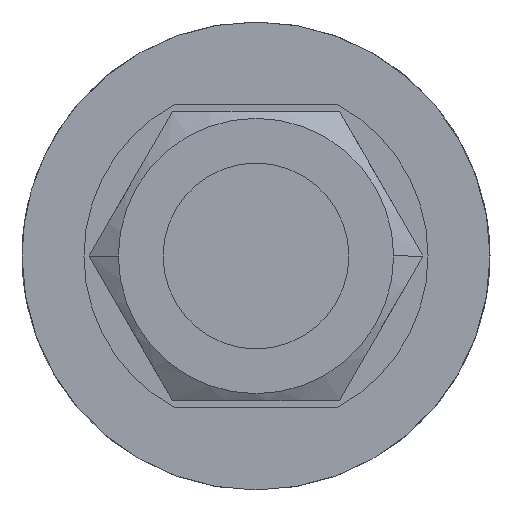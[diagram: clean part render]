
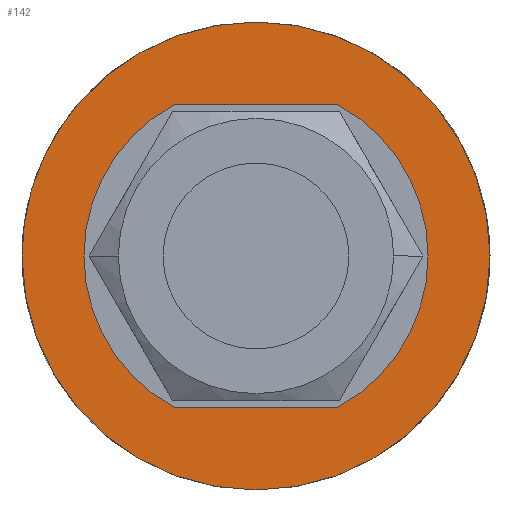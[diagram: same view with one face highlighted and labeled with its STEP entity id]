
A CAD part, left-side view. The second image highlights one B-rep face of the part: STEP entity #142.
In plain terms, the highlighted planar face has unit normal (-1, 0, 0).
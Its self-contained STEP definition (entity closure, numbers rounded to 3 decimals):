
#142 = ADVANCED_FACE( '', ( #196, #197 ), #198, .T. );
#196 = FACE_BOUND( '', #266, .T. );
#197 = FACE_OUTER_BOUND( '', #267, .T. );
#198 = PLANE( '', #268 );
#266 = EDGE_LOOP( '', ( #432, #433, #434, #435, #436, #437 ) );
#267 = EDGE_LOOP( '', ( #438, #439, #440 ) );
#268 = AXIS2_PLACEMENT_3D( '', #441, #442, #443 );
#432 = ORIENTED_EDGE( '', *, *, #555, .F. );
#433 = ORIENTED_EDGE( '', *, *, #590, .T. );
#434 = ORIENTED_EDGE( '', *, *, #561, .F. );
#435 = ORIENTED_EDGE( '', *, *, #595, .F. );
#436 = ORIENTED_EDGE( '', *, *, #587, .T. );
#437 = ORIENTED_EDGE( '', *, *, #596, .F. );
#438 = ORIENTED_EDGE( '', *, *, #597, .T. );
#439 = ORIENTED_EDGE( '', *, *, #559, .T. );
#440 = ORIENTED_EDGE( '', *, *, #598, .T. );
#441 = CARTESIAN_POINT( '', ( -33., 14.75, 0. ) );
#442 = DIRECTION( '', ( -1., 0., 0. ) );
#443 = DIRECTION( '', ( 0., 1., 0. ) );
#555 = EDGE_CURVE( '', #640, #636, #642, .T. );
#559 = EDGE_CURVE( '', #644, #648, #650, .T. );
#561 = EDGE_CURVE( '', #651, #654, #655, .T. );
#587 = EDGE_CURVE( '', #696, #693, #697, .T. );
#590 = EDGE_CURVE( '', #640, #654, #701, .T. );
#595 = EDGE_CURVE( '', #696, #651, #706, .T. );
#596 = EDGE_CURVE( '', #636, #693, #707, .T. );
#597 = EDGE_CURVE( '', #708, #644, #709, .T. );
#598 = EDGE_CURVE( '', #648, #708, #710, .T. );
#636 = VERTEX_POINT( '', #788 );
#640 = VERTEX_POINT( '', #793 );
#642 = CIRCLE( '', #796, 12.5 );
#644 = VERTEX_POINT( '', #798 );
#648 = VERTEX_POINT( '', #803 );
#650 = CIRCLE( '', #806, 17. );
#651 = VERTEX_POINT( '', #807 );
#654 = VERTEX_POINT( '', #811 );
#655 = CIRCLE( '', #812, 12.5 );
#693 = VERTEX_POINT( '', #892 );
#696 = VERTEX_POINT( '', #896 );
#697 = LINE( '', #897, #898 );
#701 = LINE( '', #904, #905 );
#706 = CIRCLE( '', #911, 12.5 );
#707 = CIRCLE( '', #912, 12.5 );
#708 = VERTEX_POINT( '', #913 );
#709 = CIRCLE( '', #914, 17. );
#710 = CIRCLE( '', #915, 17. );
#788 = CARTESIAN_POINT( '', ( -33., -12.5, 0. ) );
#793 = CARTESIAN_POINT( '', ( -33., -5.937, -11. ) );
#796 = AXIS2_PLACEMENT_3D( '', #1031, #1032, #1033 );
#798 = CARTESIAN_POINT( '', ( -33., 17., 0. ) );
#803 = CARTESIAN_POINT( '', ( -33., -17., 0. ) );
#806 = AXIS2_PLACEMENT_3D( '', #1039, #1040, #1041 );
#807 = CARTESIAN_POINT( '', ( -33., 12.5, 0. ) );
#811 = CARTESIAN_POINT( '', ( -33., 5.937, -11. ) );
#812 = AXIS2_PLACEMENT_3D( '', #1043, #1044, #1045 );
#892 = CARTESIAN_POINT( '', ( -33., -5.937, 11. ) );
#896 = CARTESIAN_POINT( '', ( -33., 5.937, 11. ) );
#897 = CARTESIAN_POINT( '', ( -33., 19., 11. ) );
#898 = VECTOR( '', #1080, 1. );
#904 = CARTESIAN_POINT( '', ( -33., -19., -11. ) );
#905 = VECTOR( '', #1083, 1. );
#911 = AXIS2_PLACEMENT_3D( '', #1094, #1095, #1096 );
#912 = AXIS2_PLACEMENT_3D( '', #1097, #1098, #1099 );
#913 = CARTESIAN_POINT( '', ( -33., 12.961, 11. ) );
#914 = AXIS2_PLACEMENT_3D( '', #1100, #1101, #1102 );
#915 = AXIS2_PLACEMENT_3D( '', #1103, #1104, #1105 );
#1031 = CARTESIAN_POINT( '', ( -33., 0., 0. ) );
#1032 = DIRECTION( '', ( -1., 0., 0. ) );
#1033 = DIRECTION( '', ( 0., 1., 0. ) );
#1039 = CARTESIAN_POINT( '', ( -33., 0., 0. ) );
#1040 = DIRECTION( '', ( -1., 0., 0. ) );
#1041 = DIRECTION( '', ( 0., 1., 0. ) );
#1043 = CARTESIAN_POINT( '', ( -33., 0., 0. ) );
#1044 = DIRECTION( '', ( -1., 0., 0. ) );
#1045 = DIRECTION( '', ( 0., 1., 0. ) );
#1080 = DIRECTION( '', ( 0., -1., 0. ) );
#1083 = DIRECTION( '', ( 0., 1., 0. ) );
#1094 = CARTESIAN_POINT( '', ( -33., 0., 0. ) );
#1095 = DIRECTION( '', ( -1., 0., 0. ) );
#1096 = DIRECTION( '', ( 0., 1., 0. ) );
#1097 = CARTESIAN_POINT( '', ( -33., 0., 0. ) );
#1098 = DIRECTION( '', ( -1., 0., 0. ) );
#1099 = DIRECTION( '', ( 0., 1., 0. ) );
#1100 = CARTESIAN_POINT( '', ( -33., 0., 0. ) );
#1101 = DIRECTION( '', ( -1., 0., 0. ) );
#1102 = DIRECTION( '', ( 0., 1., 0. ) );
#1103 = CARTESIAN_POINT( '', ( -33., 0., 0. ) );
#1104 = DIRECTION( '', ( -1., 0., 0. ) );
#1105 = DIRECTION( '', ( 0., 1., 0. ) );
